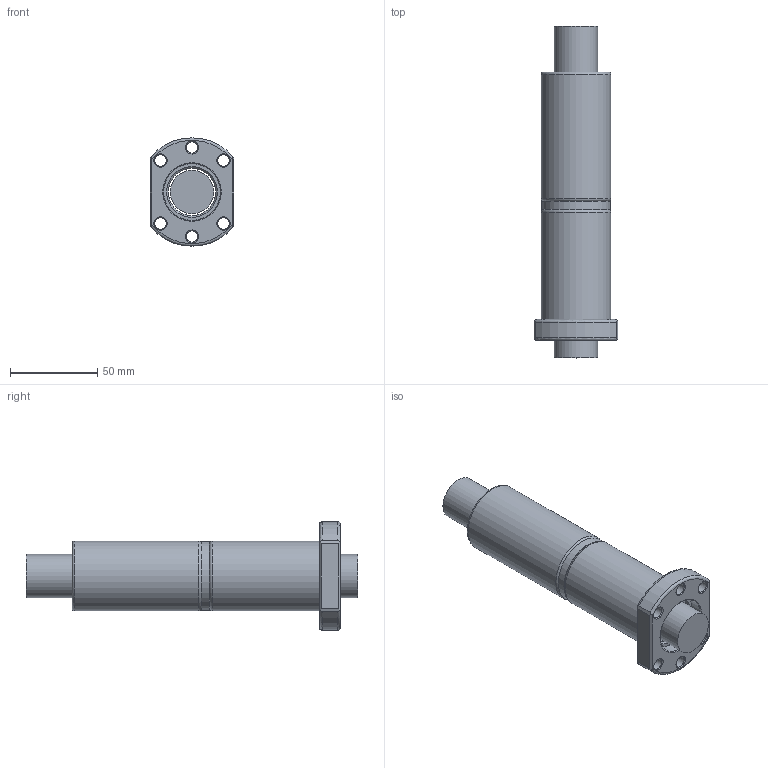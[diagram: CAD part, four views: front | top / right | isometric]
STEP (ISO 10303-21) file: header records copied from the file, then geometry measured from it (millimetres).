
FILE_DESCRIPTION(/* description */ (''),/* implementation_level */ '2;1');
FILE_NAME(/* name */ '2510.prt.step',/* time_stamp */ '2008-12-05T09:27:41+08:00',/* author */ (''),/* organization */ (''),/* preprocessor_version */ 'ST-DEVELOPER v11',/* originating_system */ 'SIEMENS UGS NX 6.0',/* authorisation */ '');
FILE_SCHEMA (('AUTOMOTIVE_DESIGN { 1 0 10303 214 1 1 1 1 }'));
Length unit declared in the file: millimetre
Products named in the file (1): 2510
Bounding box: 48 x 190 x 62 mm (x, y, z)
Volume: 206548.7 mm3; surface area: 56084.1 mm2
Topology: 4 solids, 4 shells, 69 faces, 152 edges, 96 vertices
Faces by surface type: plane 23, cylinder 19, cone 16, torus 11
Full cylindrical faces by diameter (mm): 6.6 x6, 24.95 x1, 27 x2, 29 x1, 31 x2, 32.3 x1, 32.5 x1, 39 x1, 40 x2
Entity records: 1925 total; most frequent: CARTESIAN_POINT 504, DIRECTION 294, ORIENTED_EDGE 210, AXIS2_PLACEMENT_3D 135, EDGE_LOOP 132, FACE_BOUND 114, EDGE_CURVE 105, VERTEX_POINT 89
